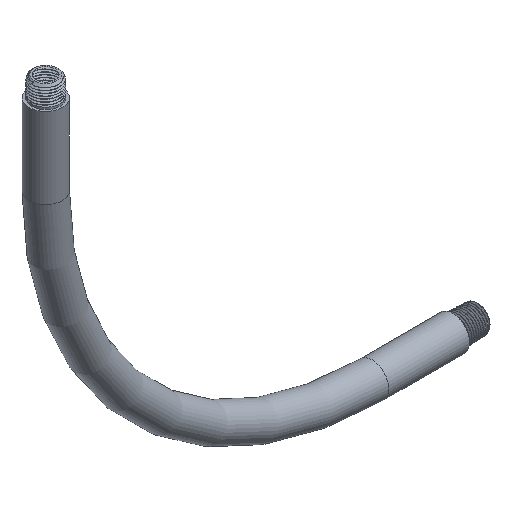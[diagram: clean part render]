
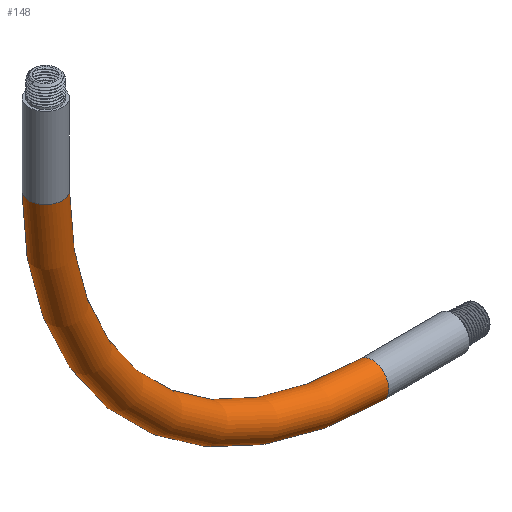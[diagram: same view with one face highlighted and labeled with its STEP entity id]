
A CAD part, isometric view. The second image highlights one B-rep face of the part: STEP entity #148.
In plain terms, the highlighted toroidal (fillet/blend) face has major radius 242.5 mm and minor radius 12.5 mm.
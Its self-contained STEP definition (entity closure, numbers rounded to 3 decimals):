
#103=CARTESIAN_POINT('',(-12.5,0.,242.5));
#104=VERTEX_POINT('',#103);
#113=CARTESIAN_POINT('',(0.,0.,242.5));
#114=DIRECTION('',(0.,0.,-1.));
#115=DIRECTION('',(-1.,0.,-0.));
#116=AXIS2_PLACEMENT_3D('',#113,#114,#115);
#117=CIRCLE('',#116,12.5);
#118=EDGE_CURVE('',#104,#104,#117,.T.);
#123=CARTESIAN_POINT('',(242.5,0.,242.5));
#124=DIRECTION('',(0.,-1.,-0.));
#125=DIRECTION('',(-1.,0.,-0.));
#126=AXIS2_PLACEMENT_3D('',#123,#124,#125);
#127=TOROIDAL_SURFACE('',#126,242.5,12.5);
#128=CARTESIAN_POINT('',(242.5,0.,-12.5));
#129=VERTEX_POINT('',#128);
#130=CARTESIAN_POINT('',(242.5,0.,242.5));
#131=DIRECTION('',(-0.,1.,0.));
#132=DIRECTION('',(-1.,0.,-0.));
#133=AXIS2_PLACEMENT_3D('',#130,#131,#132);
#134=CIRCLE('',#133,255.);
#135=EDGE_CURVE('',#129,#104,#134,.T.);
#136=ORIENTED_EDGE('',*,*,#135,.T.);
#137=ORIENTED_EDGE('',*,*,#118,.T.);
#138=ORIENTED_EDGE('',*,*,#135,.F.);
#139=CARTESIAN_POINT('',(242.5,0.,0.));
#140=DIRECTION('',(1.,0.,0.));
#141=DIRECTION('',(0.,0.,-1.));
#142=AXIS2_PLACEMENT_3D('',#139,#140,#141);
#143=CIRCLE('',#142,12.5);
#144=EDGE_CURVE('',#129,#129,#143,.T.);
#145=ORIENTED_EDGE('',*,*,#144,.F.);
#146=EDGE_LOOP('',(#136,#137,#138,#145));
#147=FACE_BOUND('',#146,.T.);
#148=ADVANCED_FACE('',(#147),#127,.T.);
